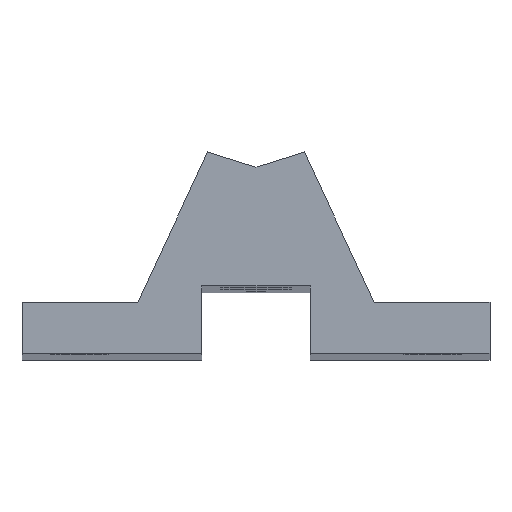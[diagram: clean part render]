
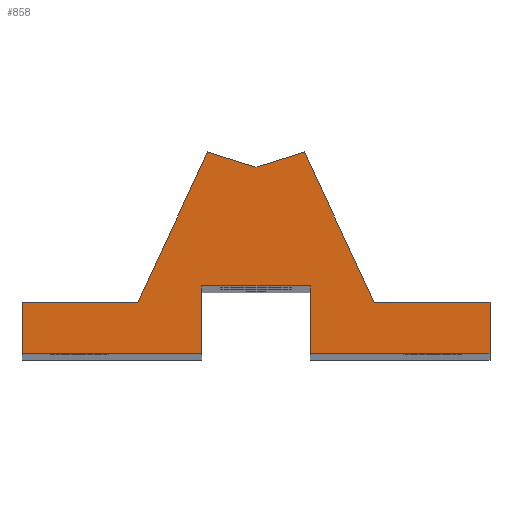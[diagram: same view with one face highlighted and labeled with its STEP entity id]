
A CAD part, top view. The second image highlights one B-rep face of the part: STEP entity #858.
In plain terms, the highlighted planar face has unit normal (0, 0, 1).
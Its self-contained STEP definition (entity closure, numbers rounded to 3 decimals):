
#16 = ORIENTED_EDGE ( 'NONE', *, *, #1192, .T. ) ;
#24 = DIRECTION ( 'NONE',  ( -0.954, -0.301, 0. ) ) ;
#43 = DIRECTION ( 'NONE',  ( 0., 0., 1. ) ) ;
#44 = LINE ( 'NONE', #1155, #594 ) ;
#53 = DIRECTION ( 'NONE',  ( -1., 0., 0. ) ) ;
#58 = VERTEX_POINT ( 'NONE', #1157 ) ;
#64 = VERTEX_POINT ( 'NONE', #656 ) ;
#97 = CARTESIAN_POINT ( 'NONE',  ( 7.527, 27.403, 299.75 ) ) ;
#112 = LINE ( 'NONE', #424, #1039 ) ;
#117 = CARTESIAN_POINT ( 'NONE',  ( 8.5, 6.5, 299.75 ) ) ;
#120 = VERTEX_POINT ( 'NONE', #790 ) ;
#143 = LINE ( 'NONE', #117, #280 ) ;
#190 = VECTOR ( 'NONE', #560, 1000. ) ;
#228 = CARTESIAN_POINT ( 'NONE',  ( 8.5, 6.5, 299.75 ) ) ;
#237 = FACE_OUTER_BOUND ( 'NONE', #1197, .T. ) ;
#257 = EDGE_CURVE ( 'NONE', #809, #294, #441, .T. ) ;
#268 = DIRECTION ( 'NONE',  ( 0., 1., 0. ) ) ;
#280 = VECTOR ( 'NONE', #1115, 1000. ) ;
#294 = VERTEX_POINT ( 'NONE', #1027 ) ;
#298 = VECTOR ( 'NONE', #383, 1000. ) ;
#325 = VECTOR ( 'NONE', #740, 1000. ) ;
#367 = LINE ( 'NONE', #553, #190 ) ;
#376 = ORIENTED_EDGE ( 'NONE', *, *, #257, .T. ) ;
#383 = DIRECTION ( 'NONE',  ( -1., 0., 0. ) ) ;
#398 = LINE ( 'NONE', #762, #691 ) ;
#399 = ORIENTED_EDGE ( 'NONE', *, *, #743, .T. ) ;
#402 = CARTESIAN_POINT ( 'NONE',  ( -7.527, 27.403, 299.75 ) ) ;
#406 = CARTESIAN_POINT ( 'NONE',  ( 36.5, 4., 299.75 ) ) ;
#409 = EDGE_CURVE ( 'NONE', #785, #58, #965, .T. ) ;
#424 = CARTESIAN_POINT ( 'NONE',  ( -36.5, 4., 299.75 ) ) ;
#431 = LINE ( 'NONE', #902, #575 ) ;
#441 = LINE ( 'NONE', #1020, #734 ) ;
#460 = DIRECTION ( 'NONE',  ( 1., 0., 0. ) ) ;
#487 = CARTESIAN_POINT ( 'NONE',  ( -18.439, 4., 299.75 ) ) ;
#532 = CARTESIAN_POINT ( 'NONE',  ( -36.5, 4., 299.75 ) ) ;
#536 = VECTOR ( 'NONE', #460, 1000. ) ;
#544 = ORIENTED_EDGE ( 'NONE', *, *, #779, .F. ) ;
#546 = CARTESIAN_POINT ( 'NONE',  ( 0., 0., 299.75 ) ) ;
#553 = CARTESIAN_POINT ( 'NONE',  ( -36.5, -4., 299.75 ) ) ;
#556 = VERTEX_POINT ( 'NONE', #97 ) ;
#560 = DIRECTION ( 'NONE',  ( 1., 0., 0. ) ) ;
#564 = CARTESIAN_POINT ( 'NONE',  ( 36.5, 4., 299.75 ) ) ;
#568 = ORIENTED_EDGE ( 'NONE', *, *, #751, .T. ) ;
#575 = VECTOR ( 'NONE', #24, 1000. ) ;
#580 = ORIENTED_EDGE ( 'NONE', *, *, #816, .F. ) ;
#594 = VECTOR ( 'NONE', #1045, 1000. ) ;
#604 = VERTEX_POINT ( 'NONE', #712 ) ;
#617 = VERTEX_POINT ( 'NONE', #406 ) ;
#645 = ORIENTED_EDGE ( 'NONE', *, *, #718, .T. ) ;
#656 = CARTESIAN_POINT ( 'NONE',  ( 18.439, 4., 299.75 ) ) ;
#691 = VECTOR ( 'NONE', #1293, 1000. ) ;
#693 = VECTOR ( 'NONE', #268, 1000. ) ;
#712 = CARTESIAN_POINT ( 'NONE',  ( 36.5, -4., 299.75 ) ) ;
#718 = EDGE_CURVE ( 'NONE', #1222, #809, #112, .T. ) ;
#734 = VECTOR ( 'NONE', #1233, 1000. ) ;
#740 = DIRECTION ( 'NONE',  ( 0., -1., 0. ) ) ;
#741 = LINE ( 'NONE', #564, #693 ) ;
#743 = EDGE_CURVE ( 'NONE', #294, #120, #828, .T. ) ;
#751 = EDGE_CURVE ( 'NONE', #556, #940, #431, .T. ) ;
#752 = CARTESIAN_POINT ( 'NONE',  ( -18.439, 4., 299.75 ) ) ;
#762 = CARTESIAN_POINT ( 'NONE',  ( 0., 25.029, 299.75 ) ) ;
#766 = EDGE_CURVE ( 'NONE', #617, #64, #1009, .T. ) ;
#779 = EDGE_CURVE ( 'NONE', #58, #120, #920, .T. ) ;
#785 = VERTEX_POINT ( 'NONE', #228 ) ;
#789 = CARTESIAN_POINT ( 'NONE',  ( 8.5, -4., 299.75 ) ) ;
#790 = CARTESIAN_POINT ( 'NONE',  ( -8.5, -4., 299.75 ) ) ;
#799 = ORIENTED_EDGE ( 'NONE', *, *, #1044, .T. ) ;
#809 = VERTEX_POINT ( 'NONE', #823 ) ;
#813 = AXIS2_PLACEMENT_3D ( 'NONE', #546, #43, #1246 ) ;
#816 = EDGE_CURVE ( 'NONE', #1000, #785, #143, .T. ) ;
#822 = ORIENTED_EDGE ( 'NONE', *, *, #1231, .T. ) ;
#823 = CARTESIAN_POINT ( 'NONE',  ( -36.5, 4., 299.75 ) ) ;
#828 = LINE ( 'NONE', #1219, #536 ) ;
#858 = ADVANCED_FACE ( 'NONE', ( #237 ), #1237, .T. ) ;
#864 = ORIENTED_EDGE ( 'NONE', *, *, #1229, .T. ) ;
#878 = DIRECTION ( 'NONE',  ( -0.423, -0.906, 0. ) ) ;
#902 = CARTESIAN_POINT ( 'NONE',  ( 7.707, 27.46, 299.75 ) ) ;
#903 = EDGE_CURVE ( 'NONE', #940, #1034, #398, .T. ) ;
#910 = CARTESIAN_POINT ( 'NONE',  ( -8.5, 6.5, 299.75 ) ) ;
#920 = LINE ( 'NONE', #910, #325 ) ;
#940 = VERTEX_POINT ( 'NONE', #978 ) ;
#957 = ORIENTED_EDGE ( 'NONE', *, *, #766, .T. ) ;
#965 = LINE ( 'NONE', #1272, #298 ) ;
#978 = CARTESIAN_POINT ( 'NONE',  ( 0., 25.029, 299.75 ) ) ;
#1000 = VERTEX_POINT ( 'NONE', #789 ) ;
#1009 = LINE ( 'NONE', #532, #1261 ) ;
#1020 = CARTESIAN_POINT ( 'NONE',  ( -36.5, 4., 299.75 ) ) ;
#1027 = CARTESIAN_POINT ( 'NONE',  ( -36.5, -4., 299.75 ) ) ;
#1034 = VERTEX_POINT ( 'NONE', #402 ) ;
#1039 = VECTOR ( 'NONE', #1287, 1000. ) ;
#1044 = EDGE_CURVE ( 'NONE', #1034, #1222, #1281, .T. ) ;
#1045 = DIRECTION ( 'NONE',  ( -0.423, 0.906, 0. ) ) ;
#1068 = ORIENTED_EDGE ( 'NONE', *, *, #409, .F. ) ;
#1115 = DIRECTION ( 'NONE',  ( 0., 1., 0. ) ) ;
#1155 = CARTESIAN_POINT ( 'NONE',  ( 7.5, 27.46, 299.75 ) ) ;
#1157 = CARTESIAN_POINT ( 'NONE',  ( -8.5, 6.5, 299.75 ) ) ;
#1171 = VECTOR ( 'NONE', #878, 1000. ) ;
#1188 = ORIENTED_EDGE ( 'NONE', *, *, #903, .T. ) ;
#1192 = EDGE_CURVE ( 'NONE', #604, #617, #741, .T. ) ;
#1197 = EDGE_LOOP ( 'NONE', ( #580, #864, #16, #957, #822, #568, #1188, #799, #645, #376, #399, #544, #1068 ) ) ;
#1219 = CARTESIAN_POINT ( 'NONE',  ( -36.5, -4., 299.75 ) ) ;
#1222 = VERTEX_POINT ( 'NONE', #752 ) ;
#1229 = EDGE_CURVE ( 'NONE', #1000, #604, #367, .T. ) ;
#1231 = EDGE_CURVE ( 'NONE', #64, #556, #44, .T. ) ;
#1233 = DIRECTION ( 'NONE',  ( 0., -1., 0. ) ) ;
#1237 = PLANE ( 'NONE',  #813 ) ;
#1246 = DIRECTION ( 'NONE',  ( 1., 0., 0. ) ) ;
#1261 = VECTOR ( 'NONE', #53, 1000. ) ;
#1272 = CARTESIAN_POINT ( 'NONE',  ( -8.5, 6.5, 299.75 ) ) ;
#1281 = LINE ( 'NONE', #487, #1171 ) ;
#1287 = DIRECTION ( 'NONE',  ( -1., 0., 0. ) ) ;
#1293 = DIRECTION ( 'NONE',  ( -0.954, 0.301, 0. ) ) ;
